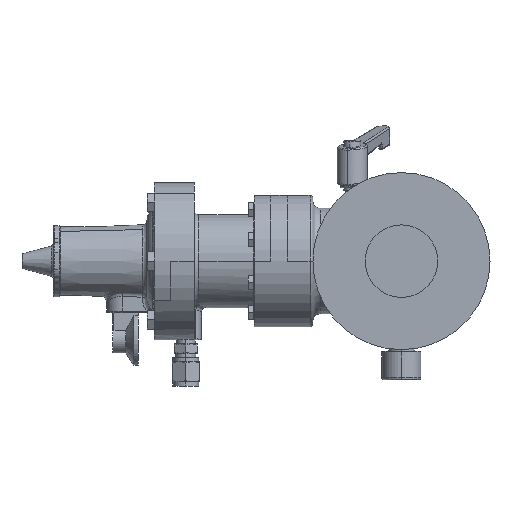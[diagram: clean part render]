
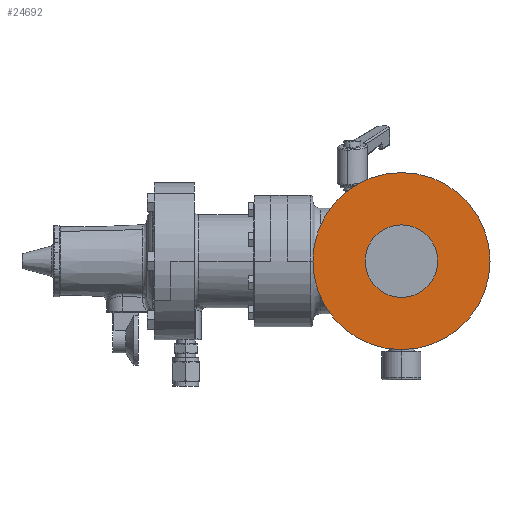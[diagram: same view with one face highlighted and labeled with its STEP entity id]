
A CAD part, left-side view. The second image highlights one B-rep face of the part: STEP entity #24692.
In plain terms, the highlighted planar face has unit normal (-1, 0, 0).
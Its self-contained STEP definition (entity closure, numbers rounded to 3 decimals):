
#3985=CARTESIAN_POINT('',(-79.9,0.,0.));
#3986=DIRECTION('',(1.,0.,0.));
#3987=DIRECTION('',(0.,-1.,0.));
#3988=AXIS2_PLACEMENT_3D('',#3985,#3986,#3987);
#3990=CARTESIAN_POINT('',(-79.9,0.,0.));
#3991=DIRECTION('',(1.,0.,0.));
#3992=DIRECTION('',(0.,1.,0.));
#3993=AXIS2_PLACEMENT_3D('',#3990,#3991,#3992);
#3995=CARTESIAN_POINT('',(-79.9,0.,0.));
#3996=DIRECTION('',(-1.,0.,0.));
#3997=DIRECTION('',(0.,-1.,0.));
#3998=AXIS2_PLACEMENT_3D('',#3995,#3996,#3997);
#4000=CARTESIAN_POINT('',(-79.9,0.,0.));
#4001=DIRECTION('',(-1.,0.,0.));
#4002=DIRECTION('',(0.,1.,0.));
#4003=AXIS2_PLACEMENT_3D('',#4000,#4001,#4002);
#17726=CARTESIAN_POINT('',(-79.9,25.4,0.));
#17727=VERTEX_POINT('',#17726);
#17728=CARTESIAN_POINT('',(-79.9,-25.4,0.));
#17729=VERTEX_POINT('',#17728);
#17730=CARTESIAN_POINT('',(-79.9,-62.,0.));
#17731=CARTESIAN_POINT('',(-79.9,62.,0.));
#17732=VERTEX_POINT('',#17730);
#17733=VERTEX_POINT('',#17731);
#24677=CARTESIAN_POINT('',(-79.9,0.,0.));
#24678=DIRECTION('',(1.,0.,0.));
#24679=DIRECTION('',(0.,-1.,0.));
#24680=AXIS2_PLACEMENT_3D('',#24677,#24678,#24679);
#24681=PLANE('',#24680);
#24682=ORIENTED_EDGE('',*,*,#24671,.T.);
#24683=ORIENTED_EDGE('',*,*,#24657,.T.);
#24684=EDGE_LOOP('',(#24682,#24683));
#24685=FACE_OUTER_BOUND('',#24684,.F.);
#24687=ORIENTED_EDGE('',*,*,#24686,.T.);
#24689=ORIENTED_EDGE('',*,*,#24688,.T.);
#24690=EDGE_LOOP('',(#24687,#24689));
#24691=FACE_BOUND('',#24690,.F.);
#24692=ADVANCED_FACE('',(#24685,#24691),#24681,.F.);
#3989=CIRCLE('',#3988,62.);
#3994=CIRCLE('',#3993,62.);
#3999=CIRCLE('',#3998,25.4);
#4004=CIRCLE('',#4003,25.4);
#24657=EDGE_CURVE('',#17733,#17732,#3994,.T.);
#24671=EDGE_CURVE('',#17732,#17733,#3989,.T.);
#24686=EDGE_CURVE('',#17729,#17727,#3999,.T.);
#24688=EDGE_CURVE('',#17727,#17729,#4004,.T.);
